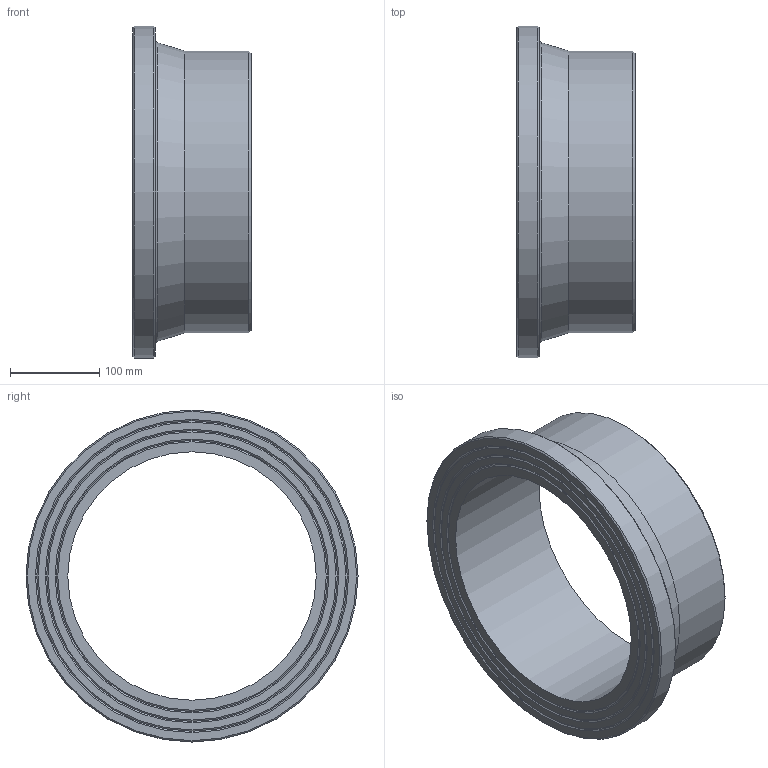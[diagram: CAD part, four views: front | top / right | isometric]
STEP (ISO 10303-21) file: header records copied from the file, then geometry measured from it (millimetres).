
FILE_DESCRIPTION(/* description */ ('Unknown'),/* implementation_level */ '2;1');
FILE_NAME(/* name */ 'CCP315B',/* time_stamp */ '2022-04-04T16:58:49+02:00',/* author */ ('Unknown'),/* organization */ ('Unknown'),/* preprocessor_version */ 'ST-DEVELOPER v18.1',/* originating_system */ 'Solid Edge',/* authorisation */ 'Unknown');
FILE_SCHEMA (('AUTOMOTIVE_DESIGN {1 0 10303 214 3 1 1}'));
Length unit declared in the file: millimetre
Products named in the file (1): CCP315B
Bounding box: 132 x 371 x 371 mm (x, y, z)
Volume: 3209759.8 mm3; surface area: 335467.4 mm2
Topology: 1 solids, 1 shells, 20 faces, 35 edges, 21 vertices
Faces by surface type: cone 10, plane 6, cylinder 3, torus 1
Full cylindrical faces by diameter (mm): 277.6 x1, 315 x1, 371 x1
Entity records: 438 total; most frequent: DIRECTION 82, CARTESIAN_POINT 61, AXIS2_PLACEMENT_3D 41, ORIENTED_EDGE 40, EDGE_LOOP 40, FACE_BOUND 40, EDGE_CURVE 20, VERTEX_POINT 20
